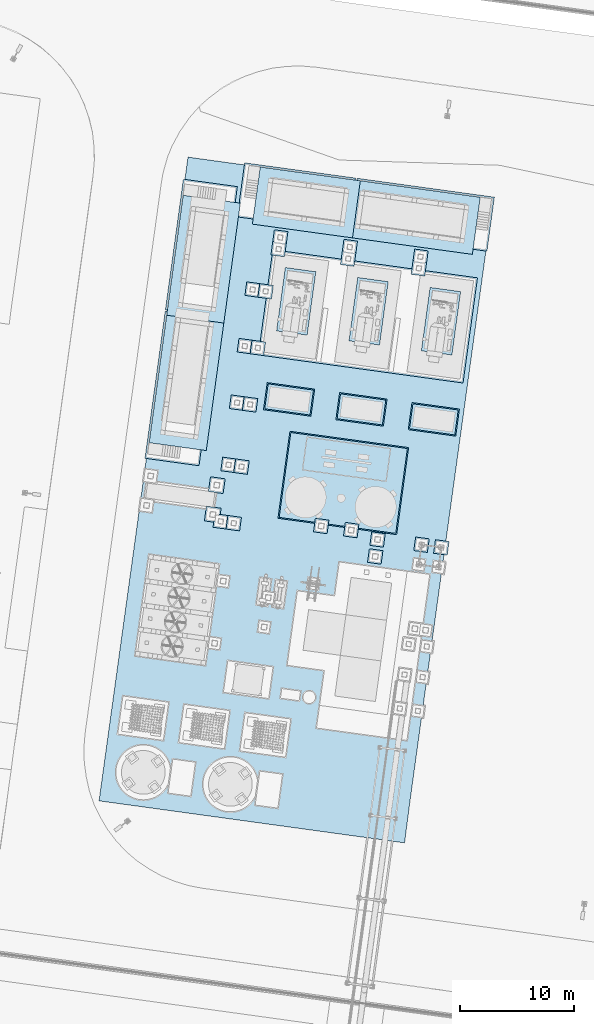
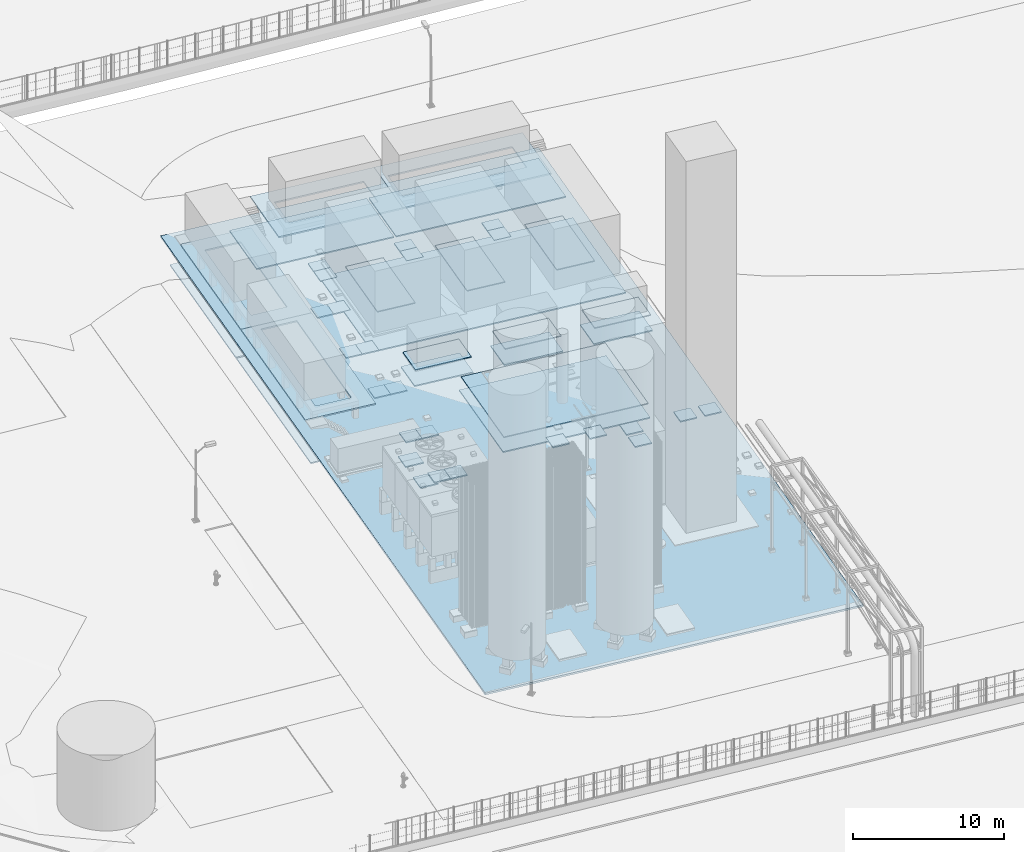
# Not in any storey, part 17 of 75: 45 slabs.
"""IFC4 model written with IfcOpenShell, lengths in metres."""

import ifcopenshell
import ifcopenshell.guid

model = None  # the IFC model being written
_history = None  # IfcOwnerHistory: only IFC2X3 demands one
_inside = {}  # id of a spatial element -> (the spatial element, [elements in it])
_under = {}  # id of a project, library or spatial element -> (it, [spatial elements below it])
_declared = {}  # id of a project -> (the project, [libraries it declares])
_typed = {}  # id of a type object -> (the type object, [elements of that type])
_made_of = {}  # id of a material, layer set ... -> (it, [elements and type objects made of it])


def new_model(schema):
    """Start an empty IFC model of exactly this schema.

    Asked for "IFC4X3", IfcOpenShell would pick the latest addendum, in which some entities
    have other attributes; the version numbers below select the first issue.
    IFC2X3 requires an IfcOwnerHistory on every rooted entity: one is made here for all.
    """
    global model, _history
    if schema == "IFC4X3":
        model = ifcopenshell.file(schema_version=(4, 3, 0, 0))
    else:
        model = ifcopenshell.file(schema=schema)
    _inside.clear()
    _under.clear()
    _declared.clear()
    _typed.clear()
    _made_of.clear()
    _history = None
    if model.schema == "IFC2X3":
        org = make("IfcOrganization", Name="unknown")
        user = make(
            "IfcPersonAndOrganization",
            ThePerson=make("IfcPerson", FamilyName="unknown"),
            TheOrganization=org,
        )
        app = make(
            "IfcApplication",
            ApplicationDeveloper=org,
            Version="unknown",
            ApplicationFullName="unknown",
            ApplicationIdentifier="unknown",
        )
        _history = make(
            "IfcOwnerHistory",
            OwningUser=user,
            OwningApplication=app,
            ChangeAction="ADDED",
            CreationDate=0,
        )
    return model


def make(cls, **values):
    """One entity of the class cls with the attributes given. An attribute that is None is left unset."""
    return model.create_entity(
        cls, **{name: value for name, value in values.items() if value is not None}
    )


def rooted(cls, **values):
    """An entity with a GlobalId (a new one), such as an element, a storey or a relation."""
    return make(cls, GlobalId=ifcopenshell.guid.new(), OwnerHistory=_history, **values)


def si_unit(unit_type, name, prefix=None):
    """IfcSIUnit, for example si_unit("LENGTHUNIT", "METRE", prefix="MILLI")."""
    return make("IfcSIUnit", UnitType=unit_type, Prefix=prefix, Name=name)


def assignment(units):
    """IfcUnitAssignment: the units of a project."""
    return None if units is None else make("IfcUnitAssignment", Units=units)


def point(xyz):
    """IfcCartesianPoint."""
    return None if xyz is None else make("IfcCartesianPoint", Coordinates=xyz)


def direction(xyz):
    """IfcDirection."""
    return None if xyz is None else make("IfcDirection", DirectionRatios=xyz)


def frame(location, z_axis=None, x_axis=None):
    """IfcAxis2Placement3D, a coordinate frame: its origin and axes. An axis left out is left unset."""
    return make(
        "IfcAxis2Placement3D",
        Location=point(location),
        Axis=direction(z_axis),
        RefDirection=direction(x_axis),
    )


def origin():
    """The frame at (0, 0, 0) with its axes left unset."""
    return frame((0.0, 0.0, 0.0))


def origin_with_axes():
    """The frame at (0, 0, 0) with the z axis (0, 0, 1) and the x axis (1, 0, 0) written out."""
    return frame((0.0, 0.0, 0.0), z_axis=(0.0, 0.0, 1.0), x_axis=(1.0, 0.0, 0.0))


def place(relative_to, where):
    """IfcLocalPlacement: puts the frame where relative to a parent placement (None: the world)."""
    return make(
        "IfcLocalPlacement", PlacementRelTo=relative_to, RelativePlacement=where
    )


def context(
    kind, dimensions, precision=None, world=None, true_north=None, identifier=None
):
    """IfcGeometricRepresentationContext, for example the 3D "Model" context."""
    return make(
        "IfcGeometricRepresentationContext",
        ContextIdentifier=identifier,
        ContextType=kind,
        CoordinateSpaceDimension=dimensions,
        Precision=precision,
        WorldCoordinateSystem=world,
        TrueNorth=true_north,
    )


def subcontext(parent, identifier, kind, view, scale=None):
    """IfcGeometricRepresentationSubContext, for example "Body" below "Model"."""
    return make(
        "IfcGeometricRepresentationSubContext",
        ContextIdentifier=identifier,
        ContextType=kind,
        ParentContext=parent,
        TargetScale=scale,
        TargetView=view,
    )


def project(units=None, contexts=None):
    """IfcProject with its units and contexts."""
    return rooted(
        "IfcProject",
        Name="project",
        RepresentationContexts=contexts,
        UnitsInContext=assignment(units),
    )


def spatial(cls, under=None, at=None, **own):
    """A site, building, storey or space (cls), placed at a placement, below another one or the project."""
    s = rooted(cls, ObjectPlacement=at, **own)
    if under is not None:
        _under.setdefault(under.id(), (under, []))[1].append(s)
    return s


def point_list(points):
    """IfcCartesianPointList2D or 3D."""
    cls = (
        "IfcCartesianPointList2D" if len(points[0]) == 2 else "IfcCartesianPointList3D"
    )
    return make(cls, CoordList=points)


def triangles(points, corners, closed=None, point_numbers=None):
    """IfcTriangulatedFaceSet: each triangle names its three corners, points numbered from 1."""
    return make(
        "IfcTriangulatedFaceSet",
        Coordinates=point_list(points),
        Closed=closed,
        CoordIndex=corners,
        PnIndex=point_numbers,
    )


def shape(context_of_items, identifier, shape_type, items):
    """IfcShapeRepresentation: the items that make up one representation, for example the "Body"."""
    return make(
        "IfcShapeRepresentation",
        ContextOfItems=context_of_items,
        RepresentationIdentifier=identifier,
        RepresentationType=shape_type,
        Items=items,
    )


def material(Name=None, Category=None):
    """IfcMaterial."""
    return make("IfcMaterial", Name=Name, Category=Category)


def made_of(thing, what):
    """Note that an element or type object is made of a material, layer set ...; save() writes the relation."""
    if what is not None:
        _made_of.setdefault(what.id(), (what, []))[1].append(thing)
    return thing


def element(
    cls,
    number,
    at=None,
    inside=None,
    cuts=None,
    type_object=None,
    material=None,
    context=None,
    identifier="Body",
    shape_type=None,
    held_by="IfcProductDefinitionShape",
    body=None,
    shapes=None,
    **own,
):
    """One element of the class cls, such as IfcWall. Its Tag is "e" and its number.

    at: its placement. inside: the storey or other place that contains it. cuts: it is an
    opening in that element (IfcRelVoidsElement). A single representation is given by context,
    identifier, shape_type and body (its items); several are given by shapes. held_by: the class
    of the entity that holds the representations. save() writes the other relations.
    """
    e = rooted(cls, Tag="e%d" % number, ObjectPlacement=at, **own)
    if body is not None:
        shapes = [shape(context, identifier, shape_type, body)]
    if shapes is not None:
        e.Representation = make(held_by, Representations=shapes)
    if inside is not None:
        _inside.setdefault(inside.id(), (inside, []))[1].append(e)
    if cuts is not None:
        rooted(
            "IfcRelVoidsElement", RelatingBuildingElement=cuts, RelatedOpeningElement=e
        )
    if type_object is not None:
        _typed.setdefault(type_object.id(), (type_object, []))[1].append(e)
    return made_of(e, material)


def aggregate(whole, parts):
    """IfcRelAggregates: a whole, such as a stair, and the parts it consists of."""
    return rooted("IfcRelAggregates", RelatingObject=whole, RelatedObjects=parts)


def save(model, path):
    """Write the relations noted so far, then the file.

    IfcRelAggregates (storeys below a building ...), IfcRelContainedInSpatialStructure (elements
    in a storey), IfcRelDefinesByType, IfcRelAssociatesMaterial and IfcRelDeclares: one each for
    every whole, place, type object, material and project.
    """
    for whole, parts in _under.values():
        aggregate(whole, parts)
    for where, things in _inside.values():
        rooted(
            "IfcRelContainedInSpatialStructure",
            RelatedElements=things,
            RelatingStructure=where,
        )
    for kind, things in _typed.values():
        rooted("IfcRelDefinesByType", RelatedObjects=things, RelatingType=kind)
    for what, things in _made_of.values():
        rooted("IfcRelAssociatesMaterial", RelatedObjects=things, RelatingMaterial=what)
    for by, libraries in _declared.values():
        rooted("IfcRelDeclares", RelatingContext=by, RelatedDefinitions=libraries)
    model.write(path)


model = new_model("IFC4")

# Units and contexts
model_context = context("Model", 3, precision=1e-05, world=origin_with_axes(), true_north=direction((0.0, 1.0)))
body_context = subcontext(model_context, "Body", "Model", "MODEL_VIEW")
ifc_project = project(units=[si_unit("AREAUNIT", "SQUARE_METRE"), si_unit("VOLUMEUNIT", "CUBIC_METRE"), si_unit("LENGTHUNIT", "METRE")], contexts=[model_context])

# Site
site_placement = place(None, origin_with_axes())
site = spatial("IfcSite", under=ifc_project, at=site_placement, Name="Parcela industrial Jinhong")

# Slabs
slab_1_placement = place(site_placement, origin_with_axes())
element("IfcSlab", 1, at=slab_1_placement, inside=site, Name="Plataforma de equipos 01 · cota provisional", PredefinedType="BASESLAB", context=body_context, shape_type="Tessellation", body=[
    triangles([(59.735524, 30.010472, 0.95), (40.291514, 86.402855, 0.95), (67.015712, 82.724006, 0.95), (59.259236, 26.339843, 0.95), (32.501005, 30.018703, 0.95), (59.735524, 30.010472, 1.1), (40.291514, 86.402855, 1.1), (67.015712, 82.724006, 1.1), (59.259236, 26.339843, 1.1), (32.501005, 30.018703, 1.1)], [[1, 2, 3], [1, 4, 5], [2, 1, 5], [8, 7, 6], [10, 9, 6], [10, 6, 7], [8, 6, 3], [3, 6, 1], [7, 8, 2], [2, 8, 3], [6, 9, 1], [1, 9, 4], [10, 7, 5], [5, 7, 2], [9, 10, 4], [4, 10, 5]], closed=True),
])
ifc_material_1 = material(Name="Hormigón de limpieza HA-20", Category="Material documentado")
slab_2_placement = place(None, origin())
element("IfcSlab", 2, at=slab_2_placement, inside=site, material=ifc_material_1, Name="Cimentación común MAC · capa de limpieza", ObjectType="Cimentación industrial", PredefinedType="USERDEFINED", context=body_context, shape_type="Tessellation", body=[
    triangles([(46.451656, 69.0826, 0.0), (65.649675, 75.83064, 0.0), (64.382979, 66.617308, 0.0), (47.718352, 78.295931, 0.0), (46.451656, 69.0826, 0.1), (65.649675, 75.83064, 0.1), (64.382979, 66.617308, 0.1), (47.718352, 78.295931, 0.1)], [[1, 2, 3], [2, 1, 4], [7, 6, 5], [8, 5, 6], [7, 5, 3], [3, 5, 1], [6, 7, 2], [2, 7, 3], [5, 8, 1], [1, 8, 4], [8, 6, 4], [4, 6, 2]], closed=True),
])
ifc_material_2 = material(Name="Mortero HA-35 de alta resistencia sin retracción", Category="Material documentado")
slab_3_placement = place(None, origin())
element("IfcSlab", 3, at=slab_3_placement, inside=site, material=ifc_material_2, Name="Plinto del compresor AC1001A · mortero de asiento", ObjectType="Cimentación industrial", PredefinedType="USERDEFINED", context=body_context, shape_type="Tessellation", body=[
    triangles([(51.49039, 76.364162, 1.45), (50.727648, 70.81635, 1.45), (48.05281, 71.1841, 1.45), (48.815552, 76.731913, 1.45), (51.49039, 76.364162, 1.5), (50.727648, 70.81635, 1.5), (48.05281, 71.1841, 1.5), (48.815552, 76.731913, 1.5)], [[1, 2, 3], [3, 4, 1], [7, 6, 5], [5, 8, 7], [5, 6, 1], [1, 6, 2], [6, 7, 2], [2, 7, 3], [8, 5, 4], [4, 5, 1], [7, 8, 3], [3, 8, 4]], closed=True),
])
slab_4_placement = place(None, origin())
element("IfcSlab", 4, at=slab_4_placement, inside=site, material=ifc_material_2, Name="Plinto del compresor AC1001B · mortero de asiento", ObjectType="Cimentación industrial", PredefinedType="USERDEFINED", context=body_context, shape_type="Tessellation", body=[
    triangles([(57.830747, 75.492457, 1.45), (57.068005, 69.944645, 1.45), (54.393167, 70.312395, 1.45), (55.155909, 75.860208, 1.45), (57.830747, 75.492457, 1.5), (57.068005, 69.944645, 1.5), (54.393167, 70.312395, 1.5), (55.155909, 75.860208, 1.5)], [[1, 2, 3], [3, 4, 1], [7, 6, 5], [5, 8, 7], [5, 6, 1], [1, 6, 2], [6, 7, 2], [2, 7, 3], [8, 5, 4], [4, 5, 1], [7, 8, 3], [3, 8, 4]], closed=True),
])
slab_5_placement = place(None, origin())
element("IfcSlab", 5, at=slab_5_placement, inside=site, material=ifc_material_2, Name="Plinto del compresor AC1001C · mortero de asiento", ObjectType="Cimentación industrial", PredefinedType="USERDEFINED", context=body_context, shape_type="Tessellation", body=[
    triangles([(64.171105, 74.620752, 1.45), (63.408363, 69.072939, 1.45), (60.733524, 69.44069, 1.45), (61.496266, 74.988503, 1.45), (64.171105, 74.620752, 1.5), (63.408363, 69.072939, 1.5), (60.733524, 69.44069, 1.5), (61.496266, 74.988503, 1.5)], [[1, 2, 3], [3, 4, 1], [7, 6, 5], [5, 8, 7], [5, 6, 1], [1, 6, 2], [6, 7, 2], [2, 7, 3], [8, 5, 4], [4, 5, 1], [7, 8, 3], [3, 8, 4]], closed=True),
])
slab_6_placement = place(None, origin())
element("IfcSlab", 6, at=slab_6_placement, inside=site, material=ifc_material_1, Name="Base del preenfriador RU1101A · capa de limpieza", ObjectType="Cimentación industrial", PredefinedType="USERDEFINED", context=body_context, shape_type="Tessellation", body=[
    triangles([(51.388995, 66.082153, 0.0), (51.062106, 63.704519, 0.0), (46.901246, 64.276575, 0.0), (47.228136, 66.654209, 0.0), (51.388995, 66.082153, 0.1), (51.062106, 63.704519, 0.1), (46.901246, 64.276575, 0.1), (47.228136, 66.654209, 0.1)], [[1, 2, 3], [3, 4, 1], [7, 6, 5], [5, 8, 7], [5, 6, 1], [1, 6, 2], [6, 7, 2], [2, 7, 3], [8, 5, 4], [4, 5, 1], [7, 8, 3], [3, 8, 4]], closed=True),
])
slab_7_placement = place(None, origin())
element("IfcSlab", 7, at=slab_7_placement, inside=site, material=ifc_material_2, Name="Base del preenfriador RU1101A · mortero superior de 50 mm", ObjectType="Cimentación industrial", PredefinedType="USERDEFINED", context=body_context, shape_type="Tessellation", body=[
    triangles([(51.276307, 65.996705, 1.25), (50.976658, 63.817207, 1.25), (47.013935, 64.362023, 1.25), (47.313583, 66.541521, 1.25), (51.276307, 65.996705, 1.3), (50.976658, 63.817207, 1.3), (47.013935, 64.362023, 1.3), (47.313583, 66.541521, 1.3)], [[1, 2, 3], [3, 4, 1], [7, 6, 5], [5, 8, 7], [5, 6, 1], [1, 6, 2], [6, 7, 2], [2, 7, 3], [8, 5, 4], [4, 5, 1], [7, 8, 3], [3, 8, 4]], closed=True),
])
slab_8_placement = place(None, origin())
element("IfcSlab", 8, at=slab_8_placement, inside=site, material=ifc_material_1, Name="Base del preenfriador RU1101B · capa de limpieza", ObjectType="Cimentación industrial", PredefinedType="USERDEFINED", context=body_context, shape_type="Tessellation", body=[
    triangles([(57.729352, 65.210448, 0.0), (57.402463, 62.832814, 0.0), (53.241603, 63.40487, 0.0), (53.568493, 65.782504, 0.0), (57.729352, 65.210448, 0.1), (57.402463, 62.832814, 0.1), (53.241603, 63.40487, 0.1), (53.568493, 65.782504, 0.1)], [[1, 2, 3], [3, 4, 1], [7, 6, 5], [5, 8, 7], [5, 6, 1], [1, 6, 2], [6, 7, 2], [2, 7, 3], [8, 5, 4], [4, 5, 1], [7, 8, 3], [3, 8, 4]], closed=True),
])
slab_9_placement = place(None, origin())
element("IfcSlab", 9, at=slab_9_placement, inside=site, material=ifc_material_2, Name="Base del preenfriador RU1101B · mortero superior de 50 mm", ObjectType="Cimentación industrial", PredefinedType="USERDEFINED", context=body_context, shape_type="Tessellation", body=[
    triangles([(57.616664, 65.125, 1.25), (57.317015, 62.945502, 1.25), (53.354292, 63.490318, 1.25), (53.653941, 65.669816, 1.25), (57.616664, 65.125, 1.3), (57.317015, 62.945502, 1.3), (53.354292, 63.490318, 1.3), (53.653941, 65.669816, 1.3)], [[1, 2, 3], [3, 4, 1], [7, 6, 5], [5, 8, 7], [5, 6, 1], [1, 6, 2], [6, 7, 2], [2, 7, 3], [8, 5, 4], [4, 5, 1], [7, 8, 3], [3, 8, 4]], closed=True),
])
slab_10_placement = place(None, origin())
element("IfcSlab", 10, at=slab_10_placement, inside=site, material=ifc_material_1, Name="Base del preenfriador RU1101C · capa de limpieza", ObjectType="Cimentación industrial", PredefinedType="USERDEFINED", context=body_context, shape_type="Tessellation", body=[
    triangles([(64.06971, 64.338743, 0.0), (63.74282, 61.961109, 0.0), (59.581961, 62.533165, 0.0), (59.90885, 64.910799, 0.0), (64.06971, 64.338743, 0.1), (63.74282, 61.961109, 0.1), (59.581961, 62.533165, 0.1), (59.90885, 64.910799, 0.1)], [[1, 2, 3], [3, 4, 1], [7, 6, 5], [5, 8, 7], [5, 6, 1], [1, 6, 2], [6, 7, 2], [2, 7, 3], [8, 5, 4], [4, 5, 1], [7, 8, 3], [3, 8, 4]], closed=True),
])
slab_11_placement = place(None, origin())
element("IfcSlab", 11, at=slab_11_placement, inside=site, material=ifc_material_2, Name="Base del preenfriador RU1101C · mortero superior de 50 mm", ObjectType="Cimentación industrial", PredefinedType="USERDEFINED", context=body_context, shape_type="Tessellation", body=[
    triangles([(63.957021, 64.253295, 1.25), (63.657372, 62.073797, 1.25), (59.694649, 62.618613, 1.25), (59.994298, 64.798111, 1.25), (63.957021, 64.253295, 1.3), (63.657372, 62.073797, 1.3), (59.694649, 62.618613, 1.3), (59.994298, 64.798111, 1.3)], [[1, 2, 3], [3, 4, 1], [7, 6, 5], [5, 8, 7], [5, 6, 1], [1, 6, 2], [6, 7, 2], [2, 7, 3], [8, 5, 4], [4, 5, 1], [7, 8, 3], [3, 8, 4]], closed=True),
])
slab_12_placement = place(None, origin())
element("IfcSlab", 12, at=slab_12_placement, inside=site, material=ifc_material_1, Name="Cimentación de purificación · capa de limpieza", ObjectType="Cimentación industrial", PredefinedType="USERDEFINED", context=body_context, shape_type="Tessellation", body=[
    triangles([(59.618515, 60.963559, 0.0), (48.167596, 54.765458, 0.0), (49.216366, 62.3937, 0.0), (58.569745, 53.335317, 0.0), (59.618515, 60.963559, 0.1), (48.167596, 54.765458, 0.1), (49.216366, 62.3937, 0.1), (58.569745, 53.335317, 0.1)], [[1, 2, 3], [2, 1, 4], [7, 6, 5], [8, 5, 6], [7, 5, 3], [3, 5, 1], [6, 7, 2], [2, 7, 3], [5, 8, 1], [1, 8, 4], [8, 6, 4], [4, 6, 2]], closed=True),
])
slab_13_placement = place(None, origin())
element("IfcSlab", 13, at=slab_13_placement, inside=site, material=ifc_material_2, Name="Cimentación de purificación · mortero superior de 50 mm", ObjectType="Cimentación industrial", PredefinedType="USERDEFINED", context=body_context, shape_type="Tessellation", body=[
    triangles([(48.280284, 54.850905, 1.15), (49.301814, 62.281012, 1.15), (59.505826, 60.878111, 1.15), (58.484297, 53.448005, 1.15), (48.280284, 54.850905, 1.2), (49.301814, 62.281012, 1.2), (59.505826, 60.878111, 1.2), (58.484297, 53.448005, 1.2)], [[1, 2, 3], [3, 4, 1], [7, 6, 5], [5, 8, 7], [5, 6, 1], [1, 6, 2], [6, 7, 2], [2, 7, 3], [8, 5, 4], [4, 5, 1], [7, 8, 3], [3, 8, 4]], closed=True),
])
slab_14_placement = place(None, origin())
element("IfcSlab", 14, at=slab_14_placement, inside=site, material=ifc_material_1, Name="Cimentación y plataforma del módulo LV-CONTAINER · capa de limpieza", ObjectType="Cimentación industrial", PredefinedType="USERDEFINED", context=body_context, shape_type="Tessellation", body=[
    triangles([(44.616828, 83.819849, 0.0), (43.043673, 72.377486, 0.0), (38.313172, 73.02786, 0.0), (39.886327, 84.470223, 0.0), (44.616828, 83.819849, 0.1), (43.043673, 72.377486, 0.1), (38.313172, 73.02786, 0.1), (39.886327, 84.470223, 0.1)], [[1, 2, 3], [3, 4, 1], [7, 6, 5], [5, 8, 7], [5, 6, 1], [1, 6, 2], [6, 7, 2], [2, 7, 3], [8, 5, 4], [4, 5, 1], [7, 8, 3], [3, 8, 4]], closed=True),
])
slab_15_placement = place(None, origin())
element("IfcSlab", 15, at=slab_15_placement, inside=site, Name="Cimentación y plataforma del módulo LV-CONTAINER · plataforma perimetral de 120 mm", ObjectType="Cimentación industrial", PredefinedType="USERDEFINED", context=body_context, shape_type="Tessellation", body=[
    triangles([(39.833855, 73.626314, 2.48), (39.869011, 83.059434, 2.48), (40.937107, 81.650828, 2.48), (38.425249, 72.558218, 2.48), (43.463343, 81.303508, 2.48), (43.428187, 71.870388, 2.48), (44.871949, 82.371604, 2.48), (42.360091, 73.278994, 2.48), (39.833855, 73.626314, 2.6), (39.869011, 83.059434, 2.6), (40.937107, 81.650828, 2.6), (38.425249, 72.558218, 2.6), (43.463343, 81.303508, 2.6), (43.428187, 71.870388, 2.6), (44.871949, 82.371604, 2.6), (42.360091, 73.278994, 2.6)], [[1, 2, 3], [2, 1, 4], [2, 5, 3], [1, 6, 4], [5, 2, 7], [6, 1, 8], [7, 8, 5], [8, 7, 6], [11, 10, 9], [12, 9, 10], [11, 13, 10], [12, 14, 9], [15, 10, 13], [16, 9, 14], [13, 16, 15], [14, 15, 16], [11, 9, 3], [3, 9, 1], [12, 10, 4], [4, 10, 2], [13, 11, 5], [5, 11, 3], [14, 12, 6], [6, 12, 4], [10, 15, 2], [2, 15, 7], [15, 14, 7], [7, 14, 6], [9, 16, 1], [1, 16, 8], [16, 13, 8], [8, 13, 5]], closed=True),
])
slab_16_placement = place(None, origin())
element("IfcSlab", 16, at=slab_16_placement, inside=site, material=ifc_material_1, Name="Cimentación y plataforma del módulo HV-CONTAINER · capa de limpieza", ObjectType="Cimentación industrial", PredefinedType="USERDEFINED", context=body_context, shape_type="Tessellation", body=[
    triangles([(66.47531, 78.164939, 0.0), (54.463305, 79.816412, 0.0), (55.113679, 84.546913, 0.0), (67.125684, 82.89544, 0.0), (66.47531, 78.164939, 0.1), (54.463305, 79.816412, 0.1), (55.113679, 84.546913, 0.1), (67.125684, 82.89544, 0.1)], [[1, 2, 3], [3, 4, 1], [7, 6, 5], [5, 8, 7], [5, 6, 1], [1, 6, 2], [6, 7, 2], [2, 7, 3], [8, 5, 4], [4, 5, 1], [7, 8, 3], [3, 8, 4]], closed=True),
])
slab_17_placement = place(None, origin())
element("IfcSlab", 17, at=slab_17_placement, inside=site, Name="Cimentación y plataforma del módulo HV-CONTAINER · plataforma perimetral de 120 mm", ObjectType="Cimentación industrial", PredefinedType="USERDEFINED", context=body_context, shape_type="Tessellation", body=[
    triangles([(55.364813, 80.499993, 2.48), (54.644037, 84.434835, 2.48), (55.712133, 83.026229, 2.48), (53.956207, 79.431897, 2.48), (64.479658, 81.820825, 2.48), (65.200434, 77.885983, 2.48), (65.888264, 82.888921, 2.48), (64.132338, 79.294589, 2.48), (55.364813, 80.499993, 2.6), (54.644037, 84.434835, 2.6), (55.712133, 83.026229, 2.6), (53.956207, 79.431897, 2.6), (64.479658, 81.820825, 2.6), (65.200434, 77.885983, 2.6), (65.888264, 82.888921, 2.6), (64.132338, 79.294589, 2.6)], [[1, 2, 3], [2, 1, 4], [2, 5, 3], [1, 6, 4], [5, 2, 7], [6, 1, 8], [7, 8, 5], [8, 7, 6], [11, 10, 9], [12, 9, 10], [11, 13, 10], [12, 14, 9], [15, 10, 13], [16, 9, 14], [13, 16, 15], [14, 15, 16], [11, 9, 3], [3, 9, 1], [12, 10, 4], [4, 10, 2], [13, 11, 5], [5, 11, 3], [14, 12, 6], [6, 12, 4], [10, 15, 2], [2, 15, 7], [15, 14, 7], [7, 14, 6], [9, 16, 1], [1, 16, 8], [16, 13, 8], [8, 13, 5]], closed=True),
])
slab_18_placement = place(None, origin())
element("IfcSlab", 18, at=slab_18_placement, inside=site, material=ifc_material_1, Name="Cimentación y plataforma del módulo IC-CONTAINER · capa de limpieza", ObjectType="Cimentación industrial", PredefinedType="USERDEFINED", context=body_context, shape_type="Tessellation", body=[
    triangles([(38.296146, 72.904025, 0.0), (43.026647, 72.253651, 0.0), (41.255996, 59.3748, 0.0), (36.525495, 60.025174, 0.0), (38.296146, 72.904025, 0.1), (43.026647, 72.253651, 0.1), (41.255996, 59.3748, 0.1), (36.525495, 60.025174, 0.1)], [[1, 2, 3], [3, 4, 1], [7, 6, 5], [5, 8, 7], [5, 6, 1], [1, 6, 2], [6, 7, 2], [2, 7, 3], [8, 5, 4], [4, 5, 1], [7, 8, 3], [3, 8, 4]], closed=True),
])
slab_19_placement = place(None, origin())
element("IfcSlab", 19, at=slab_19_placement, inside=site, Name="Cimentación y plataforma del módulo IC-CONTAINER · plataforma perimetral de 120 mm", ObjectType="Cimentación industrial", PredefinedType="USERDEFINED", context=body_context, shape_type="Tessellation", body=[
    triangles([(36.88955, 61.388291, 2.48), (39.598903, 71.917389, 2.48), (38.298156, 62.456387, 2.48), (38.530807, 73.325995, 2.48), (42.125139, 71.570069, 2.48), (41.892488, 60.700461, 2.48), (43.533745, 72.638165, 2.48), (40.824392, 62.109067, 2.48), (36.88955, 61.388291, 2.6), (39.598903, 71.917389, 2.6), (38.298156, 62.456387, 2.6), (38.530807, 73.325995, 2.6), (42.125139, 71.570069, 2.6), (41.892488, 60.700461, 2.6), (43.533745, 72.638165, 2.6), (40.824392, 62.109067, 2.6)], [[1, 2, 3], [2, 1, 4], [4, 5, 2], [3, 6, 1], [5, 4, 7], [6, 3, 8], [6, 5, 7], [5, 6, 8], [11, 10, 9], [12, 9, 10], [10, 13, 12], [9, 14, 11], [15, 12, 13], [16, 11, 14], [15, 13, 14], [16, 14, 13], [10, 11, 2], [2, 11, 3], [9, 12, 1], [1, 12, 4], [13, 10, 5], [5, 10, 2], [14, 9, 6], [6, 9, 1], [12, 15, 4], [4, 15, 7], [15, 14, 7], [7, 14, 6], [11, 16, 3], [3, 16, 8], [16, 13, 8], [8, 13, 5]], closed=True),
])
slab_20_placement = place(None, origin())
element("IfcSlab", 20, at=slab_20_placement, inside=site, material=ifc_material_1, Name="Cimentación y plataforma del módulo MV-CONTAINER · capa de limpieza", ObjectType="Cimentación industrial", PredefinedType="USERDEFINED", context=body_context, shape_type="Tessellation", body=[
    triangles([(54.964581, 84.567411, 0.0), (54.314208, 79.83691, 0.0), (44.605536, 81.171709, 0.0), (45.255909, 85.90221, 0.0), (54.964581, 84.567411, 0.1), (54.314208, 79.83691, 0.1), (44.605536, 81.171709, 0.1), (45.255909, 85.90221, 0.1)], [[1, 2, 3], [3, 4, 1], [7, 6, 5], [5, 8, 7], [5, 6, 1], [1, 6, 2], [6, 7, 2], [2, 7, 3], [8, 5, 4], [4, 5, 1], [7, 8, 3], [3, 8, 4]], closed=True),
])
slab_21_placement = place(None, origin())
element("IfcSlab", 21, at=slab_21_placement, inside=site, Name="Cimentación y plataforma del módulo MV-CONTAINER · plataforma perimetral de 120 mm", ObjectType="Cimentación industrial", PredefinedType="USERDEFINED", context=body_context, shape_type="Tessellation", body=[
    triangles([(47.339803, 81.603313, 2.48), (46.619027, 85.538155, 2.48), (47.687123, 84.129549, 2.48), (45.931197, 80.535217, 2.48), (53.977946, 83.264654, 2.48), (54.698722, 79.329812, 2.48), (55.386552, 84.33275, 2.48), (53.630626, 80.738418, 2.48), (47.339803, 81.603313, 2.6), (46.619027, 85.538155, 2.6), (47.687123, 84.129549, 2.6), (45.931197, 80.535217, 2.6), (53.977946, 83.264654, 2.6), (54.698722, 79.329812, 2.6), (55.386552, 84.33275, 2.6), (53.630626, 80.738418, 2.6)], [[1, 2, 3], [2, 1, 4], [5, 3, 2], [6, 4, 1], [5, 2, 7], [6, 1, 8], [7, 8, 5], [8, 7, 6], [11, 10, 9], [12, 9, 10], [10, 11, 13], [9, 12, 14], [15, 10, 13], [16, 9, 14], [13, 16, 15], [14, 15, 16], [11, 9, 3], [3, 9, 1], [12, 10, 4], [4, 10, 2], [13, 11, 5], [5, 11, 3], [14, 12, 6], [6, 12, 4], [10, 15, 2], [2, 15, 7], [15, 14, 7], [7, 14, 6], [9, 16, 1], [1, 16, 8], [16, 13, 8], [8, 13, 5]], closed=True),
])
slab_22_placement = place(None, origin())
element("IfcSlab", 22, at=slab_22_placement, inside=site, material=ifc_material_1, Name="Cimentación de soporte de tuberías C01 · capa de limpieza", ObjectType="Cimentación industrial", PredefinedType="USERDEFINED", context=body_context, shape_type="Tessellation", body=[
    triangles([(47.694196, 78.854426, 0.0), (47.857641, 80.043243, 0.0), (49.046458, 79.879798, 0.0), (48.883013, 78.690981, 0.0), (47.694196, 78.854426, 0.1), (47.857641, 80.043243, 0.1), (49.046458, 79.879798, 0.1), (48.883013, 78.690981, 0.1)], [[1, 2, 3], [3, 4, 1], [7, 6, 5], [5, 8, 7], [5, 6, 1], [1, 6, 2], [6, 7, 2], [2, 7, 3], [8, 5, 4], [4, 5, 1], [7, 8, 3], [3, 8, 4]], closed=True),
])
slab_23_placement = place(None, origin())
element("IfcSlab", 23, at=slab_23_placement, inside=site, material=ifc_material_1, Name="Cimentación de soporte de tuberías C02 · capa de limpieza", ObjectType="Cimentación industrial", PredefinedType="USERDEFINED", context=body_context, shape_type="Tessellation", body=[
    triangles([(48.906849, 78.86435, 0.0), (47.554587, 77.838978, 0.0), (47.718032, 79.027795, 0.0), (48.743404, 77.675533, 0.0), (48.906849, 78.86435, 0.1), (47.554587, 77.838978, 0.1), (47.718032, 79.027795, 0.1), (48.743404, 77.675533, 0.1)], [[1, 2, 3], [2, 1, 4], [7, 6, 5], [8, 5, 6], [7, 5, 3], [3, 5, 1], [6, 7, 2], [2, 7, 3], [5, 8, 1], [1, 8, 4], [8, 6, 4], [4, 6, 2]], closed=True),
])
slab_24_placement = place(None, origin())
element("IfcSlab", 24, at=slab_24_placement, inside=site, material=ifc_material_1, Name="Cimentación de soporte de tuberías C03 · capa de limpieza", ObjectType="Cimentación industrial", PredefinedType="USERDEFINED", context=body_context, shape_type="Tessellation", body=[
    triangles([(53.786883, 78.016772, 0.0), (53.950328, 79.205589, 0.0), (55.139145, 79.042144, 0.0), (54.9757, 77.853327, 0.0), (53.786883, 78.016772, 0.1), (53.950328, 79.205589, 0.1), (55.139145, 79.042144, 0.1), (54.9757, 77.853327, 0.1)], [[1, 2, 3], [3, 4, 1], [7, 6, 5], [5, 8, 7], [5, 6, 1], [1, 6, 2], [6, 7, 2], [2, 7, 3], [8, 5, 4], [4, 5, 1], [7, 8, 3], [3, 8, 4]], closed=True),
])
slab_25_placement = place(None, origin())
element("IfcSlab", 25, at=slab_25_placement, inside=site, material=ifc_material_1, Name="Cimentación de soporte de tuberías C04 · capa de limpieza", ObjectType="Cimentación industrial", PredefinedType="USERDEFINED", context=body_context, shape_type="Tessellation", body=[
    triangles([(54.999536, 78.026696, 0.0), (53.647274, 77.001324, 0.0), (53.810719, 78.190141, 0.0), (54.836091, 76.837879, 0.0), (54.999536, 78.026696, 0.1), (53.647274, 77.001324, 0.1), (53.810719, 78.190141, 0.1), (54.836091, 76.837879, 0.1)], [[1, 2, 3], [2, 1, 4], [7, 6, 5], [8, 5, 6], [7, 5, 3], [3, 5, 1], [6, 7, 2], [2, 7, 3], [5, 8, 1], [1, 8, 4], [8, 6, 4], [4, 6, 2]], closed=True),
])
slab_26_placement = place(None, origin())
element("IfcSlab", 26, at=slab_26_placement, inside=site, material=ifc_material_1, Name="Cimentación de soporte de tuberías C05 · capa de limpieza", ObjectType="Cimentación industrial", PredefinedType="USERDEFINED", context=body_context, shape_type="Tessellation", body=[
    triangles([(59.978638, 77.165497, 0.0), (60.142083, 78.354314, 0.0), (61.3309, 78.19087, 0.0), (61.167455, 77.002053, 0.0), (59.978638, 77.165497, 0.1), (60.142083, 78.354314, 0.1), (61.3309, 78.19087, 0.1), (61.167455, 77.002053, 0.1)], [[1, 2, 3], [3, 4, 1], [7, 6, 5], [5, 8, 7], [5, 6, 1], [1, 6, 2], [6, 7, 2], [2, 7, 3], [8, 5, 4], [4, 5, 1], [7, 8, 3], [3, 8, 4]], closed=True),
])
slab_27_placement = place(None, origin())
element("IfcSlab", 27, at=slab_27_placement, inside=site, material=ifc_material_1, Name="Cimentación de soporte de tuberías C06 · capa de limpieza", ObjectType="Cimentación industrial", PredefinedType="USERDEFINED", context=body_context, shape_type="Tessellation", body=[
    triangles([(61.191291, 77.175422, 0.0), (59.839029, 76.15005, 0.0), (60.002474, 77.338867, 0.0), (61.027846, 75.986605, 0.0), (61.191291, 77.175422, 0.1), (59.839029, 76.15005, 0.1), (60.002474, 77.338867, 0.1), (61.027846, 75.986605, 0.1)], [[1, 2, 3], [2, 1, 4], [7, 6, 5], [8, 5, 6], [7, 5, 3], [3, 5, 1], [6, 7, 2], [2, 7, 3], [5, 8, 1], [1, 8, 4], [8, 6, 4], [4, 6, 2]], closed=True),
])
slab_28_placement = place(None, origin())
element("IfcSlab", 28, at=slab_28_placement, inside=site, material=ifc_material_1, Name="Cimentación de soporte de tuberías C07 · capa de limpieza", ObjectType="Cimentación industrial", PredefinedType="USERDEFINED", context=body_context, shape_type="Tessellation", body=[
    triangles([(45.275149, 74.291386, 0.0), (45.438594, 75.480203, 0.0), (46.62741, 75.316758, 0.0), (46.463966, 74.127941, 0.0), (45.275149, 74.291386, 0.1), (45.438594, 75.480203, 0.1), (46.62741, 75.316758, 0.1), (46.463966, 74.127941, 0.1)], [[1, 2, 3], [3, 4, 1], [7, 6, 5], [5, 8, 7], [5, 6, 1], [1, 6, 2], [6, 7, 2], [2, 7, 3], [8, 5, 4], [4, 5, 1], [7, 8, 3], [3, 8, 4]], closed=True),
])
slab_29_placement = place(None, origin())
element("IfcSlab", 29, at=slab_29_placement, inside=site, material=ifc_material_1, Name="Cimentación de soporte de tuberías C08 · capa de limpieza", ObjectType="Cimentación industrial", PredefinedType="USERDEFINED", context=body_context, shape_type="Tessellation", body=[
    triangles([(46.414432, 74.134751, 0.0), (46.577876, 75.323568, 0.0), (47.766693, 75.160124, 0.0), (47.603249, 73.971307, 0.0), (46.414432, 74.134751, 0.1), (46.577876, 75.323568, 0.1), (47.766693, 75.160124, 0.1), (47.603249, 73.971307, 0.1)], [[1, 2, 3], [3, 4, 1], [7, 6, 5], [5, 8, 7], [5, 6, 1], [1, 6, 2], [6, 7, 2], [2, 7, 3], [8, 5, 4], [4, 5, 1], [7, 8, 3], [3, 8, 4]], closed=True),
])
slab_30_placement = place(None, origin())
element("IfcSlab", 30, at=slab_30_placement, inside=site, material=ifc_material_1, Name="Cimentación de soporte de tuberías C09 · capa de limpieza", ObjectType="Cimentación industrial", PredefinedType="USERDEFINED", context=body_context, shape_type="Tessellation", body=[
    triangles([(44.594129, 69.337982, 0.0), (44.757574, 70.526799, 0.0), (45.946391, 70.363354, 0.0), (45.782946, 69.174537, 0.0), (44.594129, 69.337982, 0.1), (44.757574, 70.526799, 0.1), (45.946391, 70.363354, 0.1), (45.782946, 69.174537, 0.1)], [[1, 2, 3], [3, 4, 1], [7, 6, 5], [5, 8, 7], [5, 6, 1], [1, 6, 2], [6, 7, 2], [2, 7, 3], [8, 5, 4], [4, 5, 1], [7, 8, 3], [3, 8, 4]], closed=True),
])
slab_31_placement = place(None, origin())
element("IfcSlab", 31, at=slab_31_placement, inside=site, material=ifc_material_1, Name="Cimentación de soporte de tuberías C10 · capa de limpieza", ObjectType="Cimentación industrial", PredefinedType="USERDEFINED", context=body_context, shape_type="Tessellation", body=[
    triangles([(45.733412, 69.181347, 0.0), (45.896857, 70.370164, 0.0), (47.085674, 70.20672, 0.0), (46.922229, 69.017903, 0.0), (45.733412, 69.181347, 0.1), (45.896857, 70.370164, 0.1), (47.085674, 70.20672, 0.1), (46.922229, 69.017903, 0.1)], [[1, 2, 3], [3, 4, 1], [7, 6, 5], [5, 8, 7], [5, 6, 1], [1, 6, 2], [6, 7, 2], [2, 7, 3], [8, 5, 4], [4, 5, 1], [7, 8, 3], [3, 8, 4]], closed=True),
])
slab_32_placement = place(None, origin())
element("IfcSlab", 32, at=slab_32_placement, inside=site, material=ifc_material_1, Name="Cimentación de soporte de tuberías C11 · capa de limpieza", ObjectType="Cimentación industrial", PredefinedType="USERDEFINED", context=body_context, shape_type="Tessellation", body=[
    triangles([(43.91311, 64.384578, 0.0), (44.076554, 65.573395, 0.0), (45.265371, 65.40995, 0.0), (45.101927, 64.221133, 0.0), (43.91311, 64.384578, 0.1), (44.076554, 65.573395, 0.1), (45.265371, 65.40995, 0.1), (45.101927, 64.221133, 0.1)], [[1, 2, 3], [3, 4, 1], [7, 6, 5], [5, 8, 7], [5, 6, 1], [1, 6, 2], [6, 7, 2], [2, 7, 3], [8, 5, 4], [4, 5, 1], [7, 8, 3], [3, 8, 4]], closed=True),
])
slab_33_placement = place(None, origin())
element("IfcSlab", 33, at=slab_33_placement, inside=site, material=ifc_material_1, Name="Cimentación de soporte de tuberías C12 · capa de limpieza", ObjectType="Cimentación industrial", PredefinedType="USERDEFINED", context=body_context, shape_type="Tessellation", body=[
    triangles([(45.052392, 64.227943, 0.0), (45.215837, 65.41676, 0.0), (46.404654, 65.253316, 0.0), (46.241209, 64.064499, 0.0), (45.052392, 64.227943, 0.1), (45.215837, 65.41676, 0.1), (46.404654, 65.253316, 0.1), (46.241209, 64.064499, 0.1)], [[1, 2, 3], [3, 4, 1], [7, 6, 5], [5, 8, 7], [5, 6, 1], [1, 6, 2], [6, 7, 2], [2, 7, 3], [8, 5, 4], [4, 5, 1], [7, 8, 3], [3, 8, 4]], closed=True),
])
slab_34_placement = place(None, origin())
element("IfcSlab", 34, at=slab_34_placement, inside=site, material=ifc_material_1, Name="Cimentación de soporte de tuberías C13 · capa de limpieza", ObjectType="Cimentación industrial", PredefinedType="USERDEFINED", context=body_context, shape_type="Tessellation", body=[
    triangles([(43.163988, 58.935833, 0.0), (43.327433, 60.12465, 0.0), (44.51625, 59.961206, 0.0), (44.352805, 58.772389, 0.0), (43.163988, 58.935833, 0.1), (43.327433, 60.12465, 0.1), (44.51625, 59.961206, 0.1), (44.352805, 58.772389, 0.1)], [[1, 2, 3], [3, 4, 1], [7, 6, 5], [5, 8, 7], [5, 6, 1], [1, 6, 2], [6, 7, 2], [2, 7, 3], [8, 5, 4], [4, 5, 1], [7, 8, 3], [3, 8, 4]], closed=True),
])
slab_35_placement = place(None, origin())
element("IfcSlab", 35, at=slab_35_placement, inside=site, material=ifc_material_1, Name="Cimentación de soporte de tuberías C14 · capa de limpieza", ObjectType="Cimentación industrial", PredefinedType="USERDEFINED", context=body_context, shape_type="Tessellation", body=[
    triangles([(44.303271, 58.779199, 0.0), (44.466716, 59.968016, 0.0), (45.655533, 59.804571, 0.0), (45.492088, 58.615754, 0.0), (44.303271, 58.779199, 0.1), (44.466716, 59.968016, 0.1), (45.655533, 59.804571, 0.1), (45.492088, 58.615754, 0.1)], [[1, 2, 3], [3, 4, 1], [7, 6, 5], [5, 8, 7], [5, 6, 1], [1, 6, 2], [6, 7, 2], [2, 7, 3], [8, 5, 4], [4, 5, 1], [7, 8, 3], [3, 8, 4]], closed=True),
])
slab_36_placement = place(None, origin())
element("IfcSlab", 36, at=slab_36_placement, inside=site, material=ifc_material_1, Name="Cimentación de marquesina C17 · capa de limpieza", ObjectType="Cimentación industrial", PredefinedType="USERDEFINED", context=body_context, shape_type="Tessellation", body=[
    triangles([(42.081079, 57.116374, -0.5), (42.258144, 58.404259, -0.5), (43.546029, 58.227194, -0.5), (43.368964, 56.939309, -0.5), (42.081079, 57.116374, -0.4), (42.258144, 58.404259, -0.4), (43.546029, 58.227194, -0.4), (43.368964, 56.939309, -0.4)], [[1, 2, 3], [3, 4, 1], [7, 6, 5], [5, 8, 7], [5, 6, 1], [1, 6, 2], [6, 7, 2], [2, 7, 3], [8, 5, 4], [4, 5, 1], [7, 8, 3], [3, 8, 4]], closed=True),
])
slab_37_placement = place(None, origin())
element("IfcSlab", 37, at=slab_37_placement, inside=site, material=ifc_material_1, Name="Cimentación de marquesina C18 · capa de limpieza", ObjectType="Cimentación industrial", PredefinedType="USERDEFINED", context=body_context, shape_type="Tessellation", body=[
    triangles([(41.726948, 54.540604, -0.5), (41.904014, 55.828489, -0.5), (43.191899, 55.651424, -0.5), (43.014833, 54.363539, -0.5), (41.726948, 54.540604, -0.4), (41.904014, 55.828489, -0.4), (43.191899, 55.651424, -0.4), (43.014833, 54.363539, -0.4)], [[1, 2, 3], [3, 4, 1], [7, 6, 5], [5, 8, 7], [5, 6, 1], [1, 6, 2], [6, 7, 2], [2, 7, 3], [8, 5, 4], [4, 5, 1], [7, 8, 3], [3, 8, 4]], closed=True),
])
slab_38_placement = place(None, origin())
element("IfcSlab", 38, at=slab_38_placement, inside=site, material=ifc_material_1, Name="Cimentación de soporte de tuberías C19 · capa de limpieza", ObjectType="Cimentación industrial", PredefinedType="USERDEFINED", context=body_context, shape_type="Tessellation", body=[
    triangles([(42.482968, 53.982429, 0.0), (42.646413, 55.171246, 0.0), (43.83523, 55.007801, 0.0), (43.671785, 53.818984, 0.0), (42.482968, 53.982429, 0.1), (42.646413, 55.171246, 0.1), (43.83523, 55.007801, 0.1), (43.671785, 53.818984, 0.1)], [[1, 2, 3], [3, 4, 1], [7, 6, 5], [5, 8, 7], [5, 6, 1], [1, 6, 2], [6, 7, 2], [2, 7, 3], [8, 5, 4], [4, 5, 1], [7, 8, 3], [3, 8, 4]], closed=True),
])
slab_39_placement = place(None, origin())
element("IfcSlab", 39, at=slab_39_placement, inside=site, material=ifc_material_1, Name="Cimentación de soporte de tuberías C20 · capa de limpieza", ObjectType="Cimentación industrial", PredefinedType="USERDEFINED", context=body_context, shape_type="Tessellation", body=[
    triangles([(43.622251, 53.825795, 0.0), (43.785696, 55.014612, 0.0), (44.974513, 54.851167, 0.0), (44.811068, 53.66235, 0.0), (43.622251, 53.825795, 0.1), (43.785696, 55.014612, 0.1), (44.974513, 54.851167, 0.1), (44.811068, 53.66235, 0.1)], [[1, 2, 3], [3, 4, 1], [7, 6, 5], [5, 8, 7], [5, 6, 1], [1, 6, 2], [6, 7, 2], [2, 7, 3], [8, 5, 4], [4, 5, 1], [7, 8, 3], [3, 8, 4]], closed=True),
])
slab_40_placement = place(None, origin())
element("IfcSlab", 40, at=slab_40_placement, inside=site, material=ifc_material_1, Name="Cimentación de soporte de tuberías C21 · capa de limpieza", ObjectType="Cimentación industrial", PredefinedType="USERDEFINED", context=body_context, shape_type="Tessellation", body=[
    triangles([(51.285156, 53.579784, 0.0), (51.4486, 54.768601, 0.0), (52.637417, 54.605157, 0.0), (52.473973, 53.41634, 0.0), (51.285156, 53.579784, 0.1), (51.4486, 54.768601, 0.1), (52.637417, 54.605157, 0.1), (52.473973, 53.41634, 0.1)], [[1, 2, 3], [3, 4, 1], [7, 6, 5], [5, 8, 7], [5, 6, 1], [1, 6, 2], [6, 7, 2], [2, 7, 3], [8, 5, 4], [4, 5, 1], [7, 8, 3], [3, 8, 4]], closed=True),
])
slab_41_placement = place(None, origin())
element("IfcSlab", 41, at=slab_41_placement, inside=site, material=ifc_material_1, Name="Cimentación de soporte de tuberías C22 · capa de limpieza", ObjectType="Cimentación industrial", PredefinedType="USERDEFINED", context=body_context, shape_type="Tessellation", body=[
    triangles([(55.262722, 54.244216, 0.0), (53.91046, 53.218844, 0.0), (54.073905, 54.407661, 0.0), (55.099277, 53.055399, 0.0), (55.262722, 54.244216, 0.1), (53.91046, 53.218844, 0.1), (54.073905, 54.407661, 0.1), (55.099277, 53.055399, 0.1)], [[1, 2, 3], [2, 1, 4], [7, 6, 5], [8, 5, 6], [7, 5, 3], [3, 5, 1], [6, 7, 2], [2, 7, 3], [5, 8, 1], [1, 8, 4], [8, 6, 4], [4, 6, 2]], closed=True),
])
slab_42_placement = place(None, origin())
element("IfcSlab", 42, at=slab_42_placement, inside=site, material=ifc_material_1, Name="Cimentación de soporte de tuberías C23 · capa de limpieza", ObjectType="Cimentación industrial", PredefinedType="USERDEFINED", context=body_context, shape_type="Tessellation", body=[
    triangles([(57.572254, 53.421986, 0.0), (56.219992, 52.396614, 0.0), (56.383437, 53.585431, 0.0), (57.408809, 52.233169, 0.0), (57.572254, 53.421986, 0.1), (56.219992, 52.396614, 0.1), (56.383437, 53.585431, 0.1), (57.408809, 52.233169, 0.1)], [[1, 2, 3], [2, 1, 4], [7, 6, 5], [8, 5, 6], [7, 5, 3], [3, 5, 1], [6, 7, 2], [2, 7, 3], [5, 8, 1], [1, 8, 4], [8, 6, 4], [4, 6, 2]], closed=True),
])
slab_43_placement = place(None, origin())
element("IfcSlab", 43, at=slab_43_placement, inside=site, material=ifc_material_1, Name="Cimentación de soporte de tuberías C24 · capa de limpieza", ObjectType="Cimentación industrial", PredefinedType="USERDEFINED", context=body_context, shape_type="Tessellation", body=[
    triangles([(57.367948, 51.935965, 0.0), (56.015686, 50.910593, 0.0), (56.179131, 52.09941, 0.0), (57.204503, 50.747148, 0.0), (57.367948, 51.935965, 0.1), (56.015686, 50.910593, 0.1), (56.179131, 52.09941, 0.1), (57.204503, 50.747148, 0.1)], [[1, 2, 3], [2, 1, 4], [7, 6, 5], [8, 5, 6], [7, 5, 3], [3, 5, 1], [6, 7, 2], [2, 7, 3], [5, 8, 1], [1, 8, 4], [8, 6, 4], [4, 6, 2]], closed=True),
])
slab_44_placement = place(None, origin())
element("IfcSlab", 44, at=slab_44_placement, inside=site, material=ifc_material_1, Name="Cimentación de soporte de tuberías C25 · capa de limpieza", ObjectType="Cimentación industrial", PredefinedType="USERDEFINED", context=body_context, shape_type="Tessellation", body=[
    triangles([(60.069095, 51.943125, 0.0), (60.23254, 53.131942, 0.0), (61.421357, 52.968497, 0.0), (61.257912, 51.77968, 0.0), (60.069095, 51.943125, 0.1), (60.23254, 53.131942, 0.1), (61.421357, 52.968497, 0.1), (61.257912, 51.77968, 0.1)], [[1, 2, 3], [3, 4, 1], [7, 6, 5], [5, 8, 7], [5, 6, 1], [1, 6, 2], [6, 7, 2], [2, 7, 3], [8, 5, 4], [4, 5, 1], [7, 8, 3], [3, 8, 4]], closed=True),
])
slab_45_placement = place(None, origin())
element("IfcSlab", 45, at=slab_45_placement, inside=site, material=ifc_material_1, Name="Cimentación de soporte de tuberías C26 · capa de limpieza", ObjectType="Cimentación industrial", PredefinedType="USERDEFINED", context=body_context, shape_type="Tessellation", body=[
    triangles([(61.802787, 51.704768, 0.0), (61.966232, 52.893585, 0.0), (63.155048, 52.73014, 0.0), (62.991604, 51.541323, 0.0), (61.802787, 51.704768, 0.1), (61.966232, 52.893585, 0.1), (63.155048, 52.73014, 0.1), (62.991604, 51.541323, 0.1)], [[1, 2, 3], [3, 4, 1], [7, 6, 5], [5, 8, 7], [5, 6, 1], [1, 6, 2], [6, 7, 2], [2, 7, 3], [8, 5, 4], [4, 5, 1], [7, 8, 3], [3, 8, 4]], closed=True),
])

save(model, "model.ifc")
